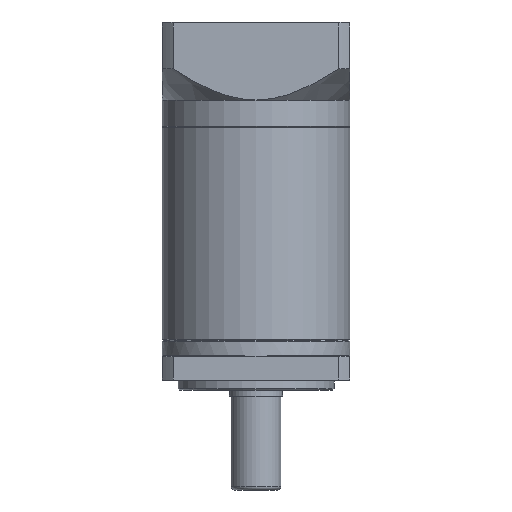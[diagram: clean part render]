
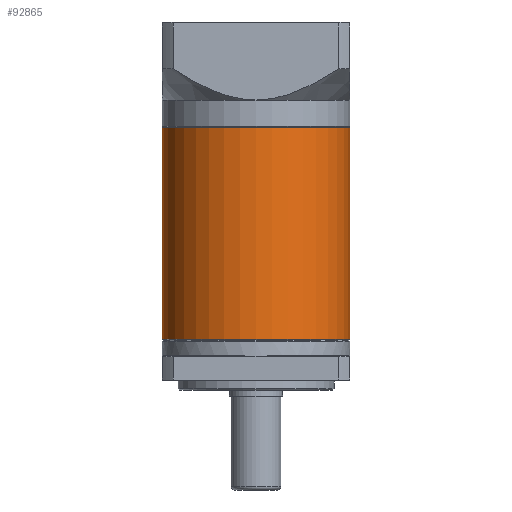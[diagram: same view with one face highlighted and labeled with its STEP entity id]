
A CAD part, front view. The second image highlights one B-rep face of the part: STEP entity #92865.
In plain terms, the highlighted cylindrical face has radius 30 mm (diameter 60 mm), a partial arc.
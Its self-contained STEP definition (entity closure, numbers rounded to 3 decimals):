
#490 = DIRECTION ( 'NONE',  ( -1., 0., 0. ) ) ;
#2545 = EDGE_CURVE ( 'NONE', #69789, #60113, #81923, .T. ) ;
#9369 = VERTEX_POINT ( 'NONE', #28419 ) ;
#14107 = CARTESIAN_POINT ( 'NONE',  ( -57.838, 40.689, -4.571 ) ) ;
#14854 = CARTESIAN_POINT ( 'NONE',  ( -57.838, 40.689, -72.371 ) ) ;
#16420 = VECTOR ( 'NONE', #75495, 1000. ) ;
#19752 = EDGE_CURVE ( 'NONE', #60113, #43609, #42426, .T. ) ;
#20378 = EDGE_LOOP ( 'NONE', ( #67810, #76725, #58495, #71891 ) ) ;
#21512 = DIRECTION ( 'NONE',  ( 1., 0., 0. ) ) ;
#22288 = DIRECTION ( 'NONE',  ( 1., 0., 0. ) ) ;
#23626 = CARTESIAN_POINT ( 'NONE',  ( -27.838, 40.689, -4.321 ) ) ;
#24984 = VECTOR ( 'NONE', #85488, 1000. ) ;
#28419 = CARTESIAN_POINT ( 'NONE',  ( -27.838, 40.689, -72.371 ) ) ;
#30011 = CYLINDRICAL_SURFACE ( 'NONE', #70446, 30. ) ;
#34116 = CARTESIAN_POINT ( 'NONE',  ( -87.838, 40.689, -4.571 ) ) ;
#37194 = AXIS2_PLACEMENT_3D ( 'NONE', #14854, #66680, #22288 ) ;
#41136 = CARTESIAN_POINT ( 'NONE',  ( -87.838, 40.689, -4.321 ) ) ;
#42426 = LINE ( 'NONE', #41136, #24984 ) ;
#43609 = VERTEX_POINT ( 'NONE', #76218 ) ;
#44521 = DIRECTION ( 'NONE',  ( 0., 0., -1. ) ) ;
#47649 = AXIS2_PLACEMENT_3D ( 'NONE', #14107, #65908, #21512 ) ;
#48188 = EDGE_CURVE ( 'NONE', #69789, #9369, #55861, .T. ) ;
#51988 = CARTESIAN_POINT ( 'NONE',  ( -57.838, 40.689, -4.321 ) ) ;
#52785 = EDGE_CURVE ( 'NONE', #43609, #9369, #64836, .T. ) ;
#55861 = LINE ( 'NONE', #23626, #16420 ) ;
#58495 = ORIENTED_EDGE ( 'NONE', *, *, #19752, .T. ) ;
#60113 = VERTEX_POINT ( 'NONE', #34116 ) ;
#64836 = CIRCLE ( 'NONE', #37194, 30. ) ;
#65908 = DIRECTION ( 'NONE',  ( 0., 0., -1. ) ) ;
#66680 = DIRECTION ( 'NONE',  ( 0., 0., 1. ) ) ;
#67810 = ORIENTED_EDGE ( 'NONE', *, *, #48188, .F. ) ;
#69789 = VERTEX_POINT ( 'NONE', #76992 ) ;
#70446 = AXIS2_PLACEMENT_3D ( 'NONE', #51988, #44521, #490 ) ;
#71891 = ORIENTED_EDGE ( 'NONE', *, *, #52785, .T. ) ;
#75495 = DIRECTION ( 'NONE',  ( 0., 0., -1. ) ) ;
#76218 = CARTESIAN_POINT ( 'NONE',  ( -87.838, 40.689, -72.371 ) ) ;
#76402 = FACE_OUTER_BOUND ( 'NONE', #20378, .T. ) ;
#76725 = ORIENTED_EDGE ( 'NONE', *, *, #2545, .T. ) ;
#76992 = CARTESIAN_POINT ( 'NONE',  ( -27.838, 40.689, -4.571 ) ) ;
#81923 = CIRCLE ( 'NONE', #47649, 30. ) ;
#85488 = DIRECTION ( 'NONE',  ( 0., 0., -1. ) ) ;
#92865 = ADVANCED_FACE ( 'NONE', ( #76402 ), #30011, .T. ) ;
